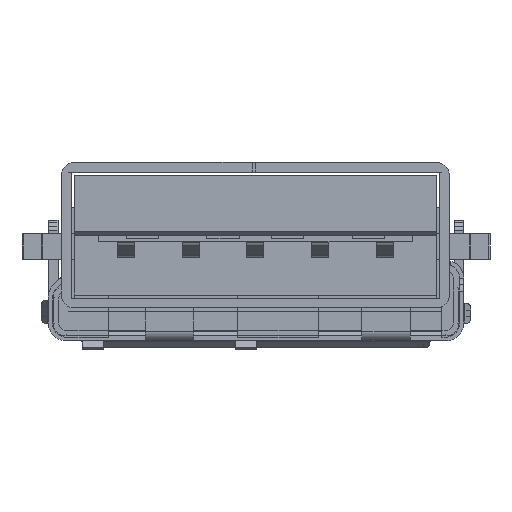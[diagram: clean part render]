
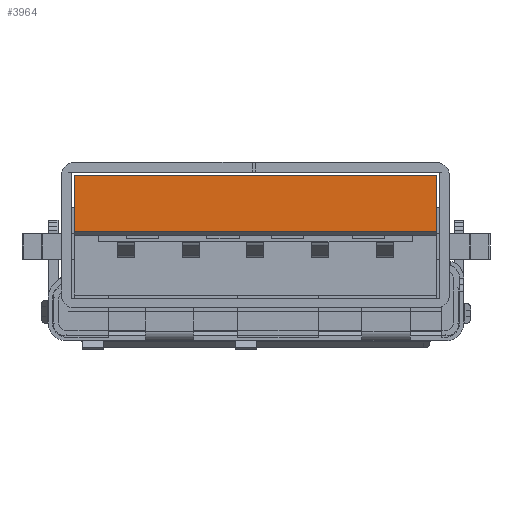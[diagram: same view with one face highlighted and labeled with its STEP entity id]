
A CAD part, front view. The second image highlights one B-rep face of the part: STEP entity #3964.
In plain terms, the highlighted planar face has unit normal (0, -1, 0).
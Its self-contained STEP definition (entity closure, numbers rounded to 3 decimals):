
#3816 = VERTEX_POINT('',#3817);
#3817 = CARTESIAN_POINT('',(-11.6,6.153,-0.745));
#3823 = EDGE_CURVE('',#3824,#3816,#3826,.T.);
#3824 = VERTEX_POINT('',#3825);
#3825 = CARTESIAN_POINT('',(-11.6,6.153,1.));
#3826 = LINE('',#3827,#3828);
#3827 = CARTESIAN_POINT('',(-11.6,6.153,1.));
#3828 = VECTOR('',#3829,1.);
#3829 = DIRECTION('',(0.,0.,-1.));
#3874 = VERTEX_POINT('',#3875);
#3875 = CARTESIAN_POINT('',(-0.4,6.153,-0.745));
#3891 = VERTEX_POINT('',#3892);
#3892 = CARTESIAN_POINT('',(-0.4,6.153,1.));
#3898 = EDGE_CURVE('',#3874,#3891,#3899,.T.);
#3899 = LINE('',#3900,#3901);
#3900 = CARTESIAN_POINT('',(-0.4,6.153,-0.85));
#3901 = VECTOR('',#3902,1.);
#3902 = DIRECTION('',(0.,0.,1.));
#3914 = EDGE_CURVE('',#3891,#3824,#3915,.T.);
#3915 = LINE('',#3916,#3917);
#3916 = CARTESIAN_POINT('',(-0.4,6.153,1.));
#3917 = VECTOR('',#3918,1.);
#3918 = DIRECTION('',(-1.,0.,0.));
#3964 = ADVANCED_FACE('',(#3965),#3976,.T.);
#3965 = FACE_BOUND('',#3966,.T.);
#3966 = EDGE_LOOP('',(#3967,#3973,#3974,#3975));
#3967 = ORIENTED_EDGE('',*,*,#3968,.T.);
#3968 = EDGE_CURVE('',#3816,#3874,#3969,.T.);
#3969 = LINE('',#3970,#3971);
#3970 = CARTESIAN_POINT('',(-11.6,6.153,-0.745));
#3971 = VECTOR('',#3972,1.);
#3972 = DIRECTION('',(1.,0.,0.));
#3973 = ORIENTED_EDGE('',*,*,#3898,.T.);
#3974 = ORIENTED_EDGE('',*,*,#3914,.T.);
#3975 = ORIENTED_EDGE('',*,*,#3823,.T.);
#3976 = PLANE('',#3977);
#3977 = AXIS2_PLACEMENT_3D('',#3978,#3979,#3980);
#3978 = CARTESIAN_POINT('',(-12.,6.153,1.4));
#3979 = DIRECTION('',(0.,-1.,0.));
#3980 = DIRECTION('',(0.,0.,-1.));
